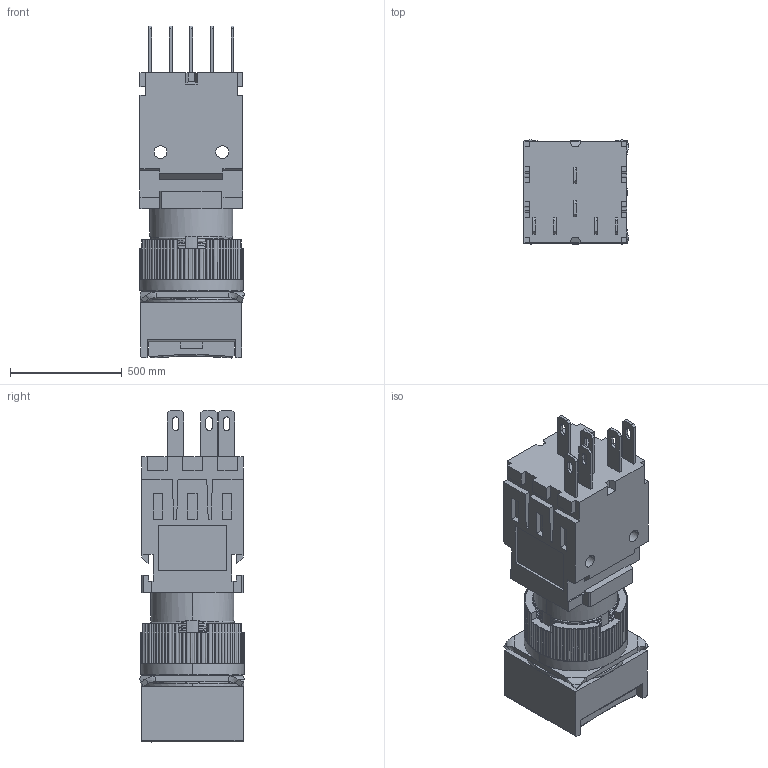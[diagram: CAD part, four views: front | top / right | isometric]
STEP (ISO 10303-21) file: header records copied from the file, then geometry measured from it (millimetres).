
FILE_DESCRIPTION((''),'2;1');
FILE_NAME('ASM0001_ASM','2016-06-03T',('Administrator'),(''),'PRO/ENGINEER BY PARAMETRIC TECHNOLOGY CORPORATION, 2012360','PRO/ENGINEER BY PARAMETRIC TECHNOLOGY CORPORATION, 2012360','');
FILE_SCHEMA(('CONFIG_CONTROL_DESIGN'));
Length unit declared in the file: inch
Products named in the file (1): ASM0001_ASM
Bounding box: 467.82 x 465.91 x 1482.85 mm (x, y, z)
Volume: 218935004.3 mm3; surface area: 4829602.3 mm2
Topology: 1 solids, 1 shells, 917 faces, 2500 edges, 1618 vertices
Faces by surface type: plane 438, cylinder 384, bspline 93, torus 2
Entity records: 40778 total; most frequent: CARTESIAN_POINT 18383, ORIENTED_EDGE 5000, DIRECTION 4189, EDGE_CURVE 2500, VERTEX_POINT 1618, AXIS2_PLACEMENT_3D 1427, VECTOR 1335, LINE 1335
